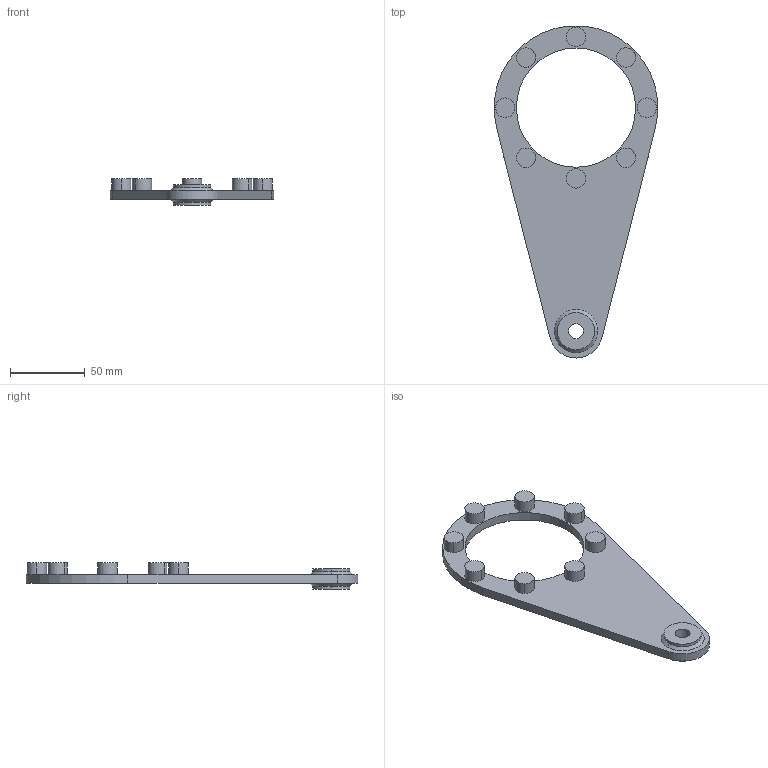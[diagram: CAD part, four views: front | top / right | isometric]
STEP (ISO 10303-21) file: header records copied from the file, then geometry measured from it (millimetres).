
FILE_DESCRIPTION(/* description */ (''),/* implementation_level */ '2;1');
FILE_NAME(/* name */ '6_BRAZZIO DI REAZIONE BA52',/* time_stamp */ '2025-10-22T11:47:46+02:00',/* author */ (''),/* organization */ (''),/* preprocessor_version */ 'ST-DEVELOPER v19.2',/* originating_system */ 'Rhino 8.23',/* authorisation */ '');
FILE_SCHEMA (('CONFIG_CONTROL_DESIGN'));
Length unit declared in the file: millimetre
Products named in the file (2): Document; A52-150U-906305
Bounding box: 109.68 x 222.79 x 18 mm (x, y, z)
Volume: 80772.5 mm3; surface area: 31128.8 mm2
Topology: 1 solids, 1 shells, 44 faces, 100 edges, 68 vertices
Faces by surface type: cylinder 26, plane 14, bspline 4
Entity records: 1604 total; most frequent: CARTESIAN_POINT 416, ORIENTED_EDGE 200, DIRECTION 176, AXIS2_PLACEMENT_3D 108, EDGE_CURVE 100, VERTEX_POINT 68, TRIMMED_CURVE 64, CIRCLE 64
